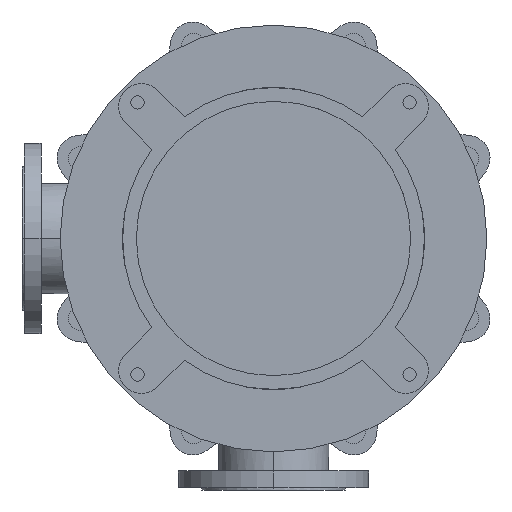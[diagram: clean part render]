
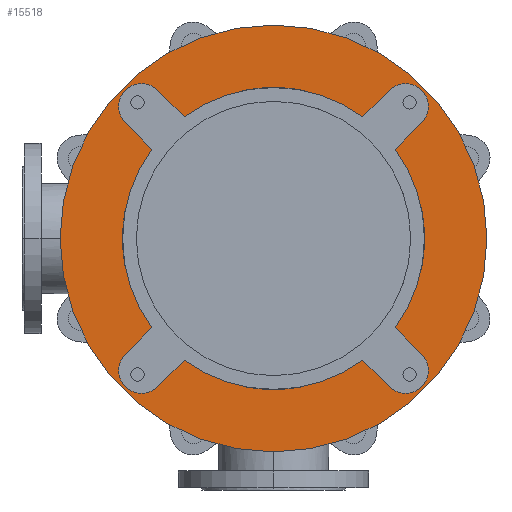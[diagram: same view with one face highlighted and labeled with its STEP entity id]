
A CAD part, front view. The second image highlights one B-rep face of the part: STEP entity #15518.
In plain terms, the highlighted planar face has unit normal (0, -1, 0).
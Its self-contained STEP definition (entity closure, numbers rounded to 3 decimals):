
#4319=CARTESIAN_POINT('',(0.,-25.,0.));
#4320=DIRECTION('',(0.,1.,0.));
#4321=DIRECTION('',(0.592,0.,-0.806));
#4322=AXIS2_PLACEMENT_3D('',#4319,#4320,#4321);
#4337=CARTESIAN_POINT('',(0.,-25.,0.));
#4338=DIRECTION('',(0.,1.,0.));
#4339=DIRECTION('',(0.806,0.,0.592));
#4340=AXIS2_PLACEMENT_3D('',#4337,#4338,#4339);
#4364=CARTESIAN_POINT('',(0.,-25.,0.));
#4365=DIRECTION('',(0.,1.,0.));
#4366=DIRECTION('',(-0.806,0.,-0.592));
#4367=AXIS2_PLACEMENT_3D('',#4364,#4365,#4366);
#4373=CARTESIAN_POINT('',(0.,-25.,0.));
#4374=DIRECTION('',(0.,1.,0.));
#4375=DIRECTION('',(-0.592,0.,0.806));
#4376=AXIS2_PLACEMENT_3D('',#4373,#4374,#4375);
#4551=CARTESIAN_POINT('',(0.,-25.,0.));
#4552=DIRECTION('',(0.,-1.,0.));
#4553=DIRECTION('',(-1.,0.,0.));
#4554=AXIS2_PLACEMENT_3D('',#4551,#4552,#4553);
#4556=CARTESIAN_POINT('',(0.,-25.,0.));
#4557=DIRECTION('',(0.,1.,0.));
#4558=DIRECTION('',(-1.,0.,0.));
#4559=AXIS2_PLACEMENT_3D('',#4556,#4557,#4558);
#4561=CARTESIAN_POINT('',(-173.241,-25.,173.241));
#4562=DIRECTION('',(0.,-1.,0.));
#4563=DIRECTION('',(0.707,0.,0.707));
#4564=AXIS2_PLACEMENT_3D('',#4561,#4562,#4563);
#4566=DIRECTION('',(0.707,0.,-0.707));
#4567=VECTOR('',#4566,49.286);
#4568=CARTESIAN_POINT('',(-194.454,-25.,152.028));
#4569=LINE('',#4568,#4567);
#4570=DIRECTION('',(-0.707,0.,-0.707));
#4571=VECTOR('',#4570,49.286);
#4572=CARTESIAN_POINT('',(-159.604,-25.,-117.178));
#4573=LINE('',#4572,#4571);
#4574=CARTESIAN_POINT('',(-173.241,-25.,-173.241));
#4575=DIRECTION('',(0.,-1.,0.));
#4576=DIRECTION('',(-0.707,0.,0.707));
#4577=AXIS2_PLACEMENT_3D('',#4574,#4575,#4576);
#4579=DIRECTION('',(0.707,0.,0.707));
#4580=VECTOR('',#4579,49.286);
#4581=CARTESIAN_POINT('',(-152.028,-25.,-194.454));
#4582=LINE('',#4581,#4580);
#4583=DIRECTION('',(0.707,0.,-0.707));
#4584=VECTOR('',#4583,49.286);
#4585=CARTESIAN_POINT('',(117.178,-25.,-159.604));
#4586=LINE('',#4585,#4584);
#4587=CARTESIAN_POINT('',(173.241,-25.,-173.241));
#4588=DIRECTION('',(0.,-1.,0.));
#4589=DIRECTION('',(-0.707,0.,-0.707));
#4590=AXIS2_PLACEMENT_3D('',#4587,#4588,#4589);
#4592=DIRECTION('',(-0.707,0.,0.707));
#4593=VECTOR('',#4592,49.286);
#4594=CARTESIAN_POINT('',(194.454,-25.,-152.028));
#4595=LINE('',#4594,#4593);
#4596=DIRECTION('',(0.707,0.,0.707));
#4597=VECTOR('',#4596,49.286);
#4598=CARTESIAN_POINT('',(159.604,-25.,117.178));
#4599=LINE('',#4598,#4597);
#4600=CARTESIAN_POINT('',(173.241,-25.,173.241));
#4601=DIRECTION('',(0.,-1.,0.));
#4602=DIRECTION('',(0.707,0.,-0.707));
#4603=AXIS2_PLACEMENT_3D('',#4600,#4601,#4602);
#4605=DIRECTION('',(-0.707,0.,-0.707));
#4606=VECTOR('',#4605,49.286);
#4607=CARTESIAN_POINT('',(152.028,-25.,194.454));
#4608=LINE('',#4607,#4606);
#4609=DIRECTION('',(-0.707,0.,0.707));
#4610=VECTOR('',#4609,49.286);
#4611=CARTESIAN_POINT('',(-117.178,-25.,159.604));
#4612=LINE('',#4611,#4610);
#8392=CARTESIAN_POINT('',(-280.,-25.,0.));
#8393=CARTESIAN_POINT('',(280.,-25.,0.));
#8394=VERTEX_POINT('',#8392);
#8395=VERTEX_POINT('',#8393);
#8416=CARTESIAN_POINT('',(-194.454,-25.,-152.028));
#8417=CARTESIAN_POINT('',(-152.028,-25.,-194.454));
#8418=VERTEX_POINT('',#8416);
#8419=VERTEX_POINT('',#8417);
#8420=CARTESIAN_POINT('',(-117.178,-25.,-159.604));
#8421=VERTEX_POINT('',#8420);
#8422=CARTESIAN_POINT('',(-159.604,-25.,-117.178));
#8423=VERTEX_POINT('',#8422);
#8432=CARTESIAN_POINT('',(152.028,-25.,-194.454));
#8433=CARTESIAN_POINT('',(194.454,-25.,-152.028));
#8434=VERTEX_POINT('',#8432);
#8435=VERTEX_POINT('',#8433);
#8436=CARTESIAN_POINT('',(159.604,-25.,-117.178));
#8437=VERTEX_POINT('',#8436);
#8438=CARTESIAN_POINT('',(117.178,-25.,-159.604));
#8439=VERTEX_POINT('',#8438);
#8448=CARTESIAN_POINT('',(194.454,-25.,152.028));
#8449=CARTESIAN_POINT('',(152.028,-25.,194.454));
#8450=VERTEX_POINT('',#8448);
#8451=VERTEX_POINT('',#8449);
#8452=CARTESIAN_POINT('',(117.178,-25.,159.604));
#8453=VERTEX_POINT('',#8452);
#8454=CARTESIAN_POINT('',(159.604,-25.,117.178));
#8455=VERTEX_POINT('',#8454);
#8464=CARTESIAN_POINT('',(-152.028,-25.,194.454));
#8465=CARTESIAN_POINT('',(-194.454,-25.,152.028));
#8466=VERTEX_POINT('',#8464);
#8467=VERTEX_POINT('',#8465);
#8468=CARTESIAN_POINT('',(-159.604,-25.,117.178));
#8469=VERTEX_POINT('',#8468);
#8470=CARTESIAN_POINT('',(-117.178,-25.,159.604));
#8471=VERTEX_POINT('',#8470);
#15478=CARTESIAN_POINT('',(0.,-25.,0.));
#15479=DIRECTION('',(0.,-1.,0.));
#15480=DIRECTION('',(-1.,0.,0.));
#15481=AXIS2_PLACEMENT_3D('',#15478,#15479,#15480);
#15482=PLANE('',#15481);
#15484=ORIENTED_EDGE('',*,*,#15483,.F.);
#15486=ORIENTED_EDGE('',*,*,#15485,.T.);
#15487=EDGE_LOOP('',(#15484,#15486));
#15488=FACE_OUTER_BOUND('',#15487,.F.);
#15490=ORIENTED_EDGE('',*,*,#15489,.T.);
#15492=ORIENTED_EDGE('',*,*,#15491,.T.);
#15493=ORIENTED_EDGE('',*,*,#15431,.F.);
#15495=ORIENTED_EDGE('',*,*,#15494,.T.);
#15497=ORIENTED_EDGE('',*,*,#15496,.T.);
#15499=ORIENTED_EDGE('',*,*,#15498,.T.);
#15500=ORIENTED_EDGE('',*,*,#15384,.F.);
#15501=ORIENTED_EDGE('',*,*,#15468,.T.);
#15503=ORIENTED_EDGE('',*,*,#15502,.T.);
#15505=ORIENTED_EDGE('',*,*,#15504,.T.);
#15506=ORIENTED_EDGE('',*,*,#15405,.F.);
#15508=ORIENTED_EDGE('',*,*,#15507,.T.);
#15510=ORIENTED_EDGE('',*,*,#15509,.T.);
#15512=ORIENTED_EDGE('',*,*,#15511,.T.);
#15513=ORIENTED_EDGE('',*,*,#15449,.F.);
#15515=ORIENTED_EDGE('',*,*,#15514,.T.);
#15516=EDGE_LOOP('',(#15490,#15492,#15493,#15495,#15497,#15499,#15500,#15501,
#15503,#15505,#15506,#15508,#15510,#15512,#15513,#15515));
#15517=FACE_BOUND('',#15516,.F.);
#15518=ADVANCED_FACE('',(#15488,#15517),#15482,.T.);
#4323=CIRCLE('',#4322,198.);
#4341=CIRCLE('',#4340,198.);
#4368=CIRCLE('',#4367,198.);
#4377=CIRCLE('',#4376,198.);
#4555=CIRCLE('',#4554,280.);
#4560=CIRCLE('',#4559,280.);
#4565=CIRCLE('',#4564,30.);
#4578=CIRCLE('',#4577,30.);
#4591=CIRCLE('',#4590,30.);
#4604=CIRCLE('',#4603,30.);
#15384=EDGE_CURVE('',#8439,#8421,#4323,.T.);
#15405=EDGE_CURVE('',#8455,#8437,#4341,.T.);
#15431=EDGE_CURVE('',#8423,#8469,#4368,.T.);
#15449=EDGE_CURVE('',#8471,#8453,#4377,.T.);
#15468=EDGE_CURVE('',#8439,#8434,#4586,.T.);
#15483=EDGE_CURVE('',#8394,#8395,#4555,.T.);
#15485=EDGE_CURVE('',#8394,#8395,#4560,.T.);
#15489=EDGE_CURVE('',#8466,#8467,#4565,.T.);
#15491=EDGE_CURVE('',#8467,#8469,#4569,.T.);
#15494=EDGE_CURVE('',#8423,#8418,#4573,.T.);
#15496=EDGE_CURVE('',#8418,#8419,#4578,.T.);
#15498=EDGE_CURVE('',#8419,#8421,#4582,.T.);
#15502=EDGE_CURVE('',#8434,#8435,#4591,.T.);
#15504=EDGE_CURVE('',#8435,#8437,#4595,.T.);
#15507=EDGE_CURVE('',#8455,#8450,#4599,.T.);
#15509=EDGE_CURVE('',#8450,#8451,#4604,.T.);
#15511=EDGE_CURVE('',#8451,#8453,#4608,.T.);
#15514=EDGE_CURVE('',#8471,#8466,#4612,.T.);
